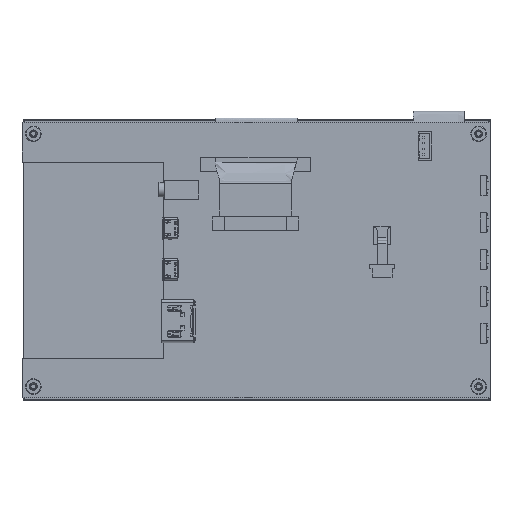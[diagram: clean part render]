
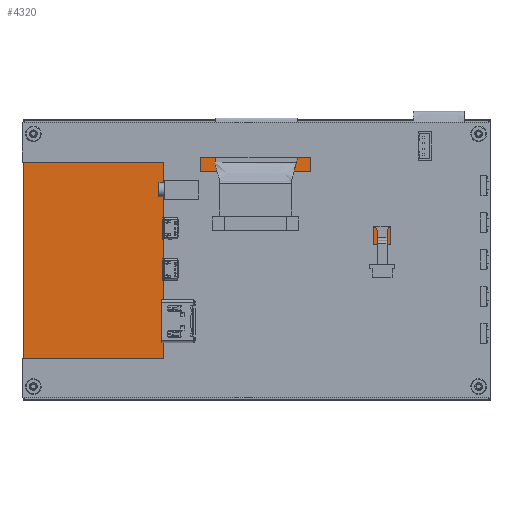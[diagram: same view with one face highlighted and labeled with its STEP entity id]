
A CAD part, front view. The second image highlights one B-rep face of the part: STEP entity #4320.
In plain terms, the highlighted planar face has unit normal (0, -1, 0) as drawn and (0, 0, -1) by its records, which use the part's own axes.
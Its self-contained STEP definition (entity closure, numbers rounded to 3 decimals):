
#3497=DIRECTION('',(0.,-1.,0.));
#3498=VECTOR('',#3497,97.);
#3499=CARTESIAN_POINT('',(-80.305,46.2,-2.5));
#3500=LINE('',#3499,#3498);
#3504=DIRECTION('',(1.,0.,0.));
#3505=VECTOR('',#3504,164.);
#3506=CARTESIAN_POINT('',(-80.305,-50.8,-2.5));
#3507=LINE('',#3506,#3505);
#3511=DIRECTION('',(0.,1.,0.));
#3512=VECTOR('',#3511,97.);
#3513=CARTESIAN_POINT('',(83.695,-50.8,-2.5));
#3514=LINE('',#3513,#3512);
#3518=DIRECTION('',(-1.,0.,0.));
#3519=VECTOR('',#3518,164.);
#3520=CARTESIAN_POINT('',(83.695,46.2,-2.5));
#3521=LINE('',#3520,#3519);
#3965=CARTESIAN_POINT('',(-80.305,46.2,-2.5));
#3966=CARTESIAN_POINT('',(-80.305,-50.8,-2.5));
#3967=VERTEX_POINT('',#3965);
#3968=VERTEX_POINT('',#3966);
#3969=CARTESIAN_POINT('',(83.695,-50.8,-2.5));
#3970=VERTEX_POINT('',#3969);
#3971=CARTESIAN_POINT('',(83.695,46.2,-2.5));
#3972=VERTEX_POINT('',#3971);
#4307=CARTESIAN_POINT('',(0.,0.,-2.5));
#4308=DIRECTION('',(0.,0.,1.));
#4309=DIRECTION('',(1.,0.,0.));
#4310=AXIS2_PLACEMENT_3D('',#4307,#4308,#4309);
#4311=PLANE('',#4310);
#4313=ORIENTED_EDGE('',*,*,#4312,.T.);
#4314=ORIENTED_EDGE('',*,*,#4276,.T.);
#4315=ORIENTED_EDGE('',*,*,#4298,.T.);
#4317=ORIENTED_EDGE('',*,*,#4316,.T.);
#4318=EDGE_LOOP('',(#4313,#4314,#4315,#4317));
#4319=FACE_OUTER_BOUND('',#4318,.F.);
#4320=ADVANCED_FACE('',(#4319),#4311,.F.);
#4276=EDGE_CURVE('',#3968,#3970,#3507,.T.);
#4298=EDGE_CURVE('',#3970,#3972,#3514,.T.);
#4312=EDGE_CURVE('',#3967,#3968,#3500,.T.);
#4316=EDGE_CURVE('',#3972,#3967,#3521,.T.);
